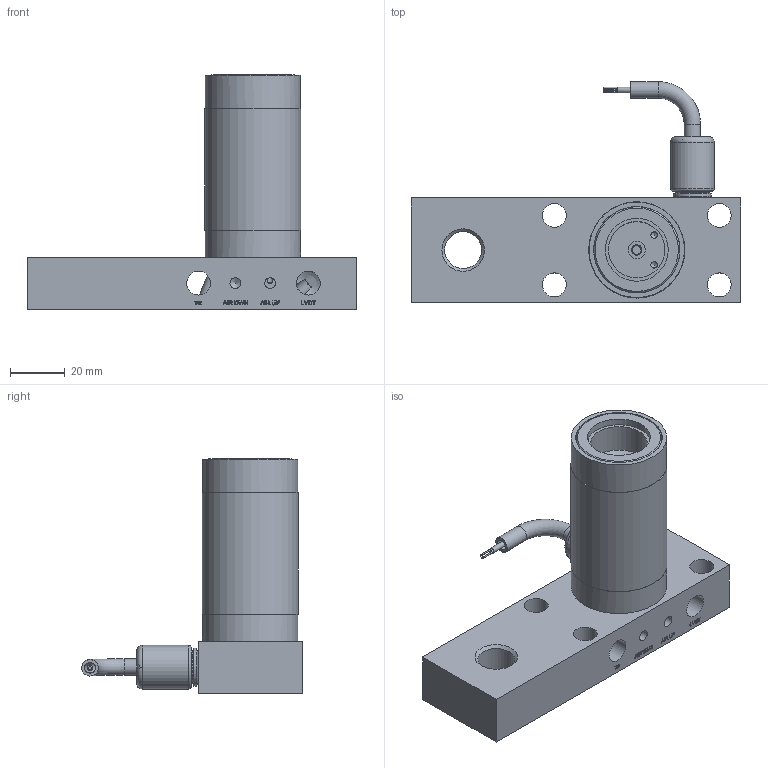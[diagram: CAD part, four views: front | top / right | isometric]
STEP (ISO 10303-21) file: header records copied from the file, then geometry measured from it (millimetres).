
FILE_DESCRIPTION(/* description */ ('ASSY,BODY,VF,LVDT,SXHR3,NHP'),/* implementation_level */ '2;1');
FILE_NAME(/* name */ 'C:\LVDT UPDATES\ASSY,BODY,VF,LVDT,SXHR3,NHP_0000838787.stp',/* time_stamp */ '2017-06-09T11:05:36-04:00',/* author */ ('tim.mcwilliams'),/* organization */ (''),/* preprocessor_version */ 'ST-DEVELOPER v16.5',/* originating_system */ 'Autodesk Inventor 2017',/* authorisation */ '');
FILE_SCHEMA (('AUTOMOTIVE_DESIGN { 1 0 10303 214 3 1 1 }'));
Products named in the file (1): ASSY,BODY,VF,LVDT,SXHR3,NHP
Bounding box: 120.65 x 80.63 x 85.72 mm (x, y, z)
Volume: 123138.2 mm3; surface area: 58097.6 mm2
Topology: 2 solids, 6 shells, 1266 faces, 3330 edges, 2198 vertices
Faces by surface type: plane 638, bspline 412, cylinder 148, cone 47, torus 17, sphere 4
Full cylindrical faces by diameter (mm): 0.5 x4, 0.55 x12, 2 x1, 2.381 x2, 3 x1, 3.15 x2, 3.175 x4, 3.2 x1, 3.81 x1, 3.962 x4, 4 x3, 4.763 x3, 6 x3, 6.35 x1, 7 x1, 8 x1, 8.731 x4, 8.738 x4, 10 x1, 12.01 x1, 12.141 x1, 12.7 x3, 13.487 x1, 13.665 x1, 13.716 x1, 14 x2, 15.206 x1, 16 x1, 20.637 x2, 23.019 x1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
Entity records: 94347 total; most frequent: CARTESIAN_POINT 64906, ORIENTED_EDGE 6280, DIRECTION 4540, EDGE_CURVE 3140, VERTEX_POINT 2135, LINE 1846, VECTOR 1846, EDGE_LOOP 1555
